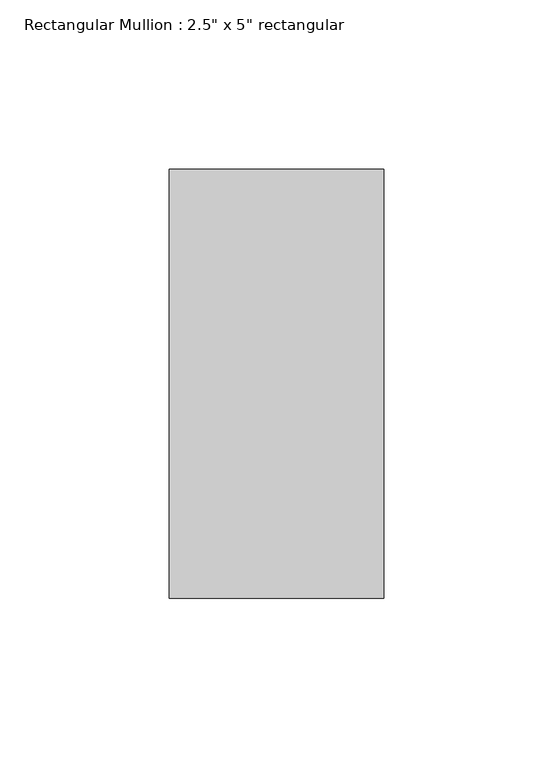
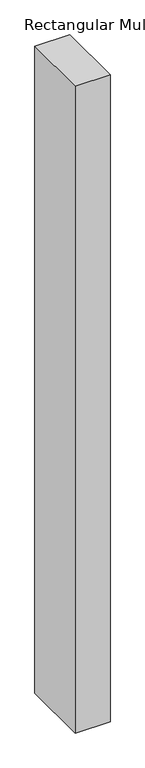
"""IFC4 building model written with IfcOpenShell, lengths in millimetres: member geometry."""

from ifc_helpers import new_model, si_unit, frame, origin, place, context, project, spatial, polyline, outline, extrude, source, transform, mapped, element, save


def member_71eb4692(model_context):
    return source(origin(), model_context, "Body", "SweptSolid", [
        extrude(outline(polyline([(0.0, 63.5), (0.0, -63.5), (-63.5, -63.5), (-63.5, 63.5), (0.0, 63.5)])), frame((0.0, 0.0, -1244.6), z_axis=(0.0, 0.0, 1.0), x_axis=(1.0, 0.0, 0.0)), (0.0, 0.0, 1.0), 1244.6),
    ])


if __name__ == "__main__":
    model = new_model("IFC4")
    model_context = context("Model", 3, world=origin())
    ifc_project = project(units=[si_unit("LENGTHUNIT", "METRE", prefix="MILLI")], contexts=[model_context])
    site = spatial("IfcSite", under=ifc_project)
    building = spatial("IfcBuilding", under=site)
    placement = place(None, origin())
    member_shape = member_71eb4692(model_context)
    element("IfcMember", 1, ObjectType="Rectangular Mullion : 2.5\" x 5\" rectangular", at=placement, inside=building, context=model_context, shape_type="MappedRepresentation", body=[
        mapped(member_shape, transform((0.0, 0.0, 0.0), x_axis=(1.0, 0.0, 0.0), y_axis=(0.0, 1.0, 0.0), z_axis=(0.0, 0.0, 1.0))),
    ])
    save(model, "model.ifc")
